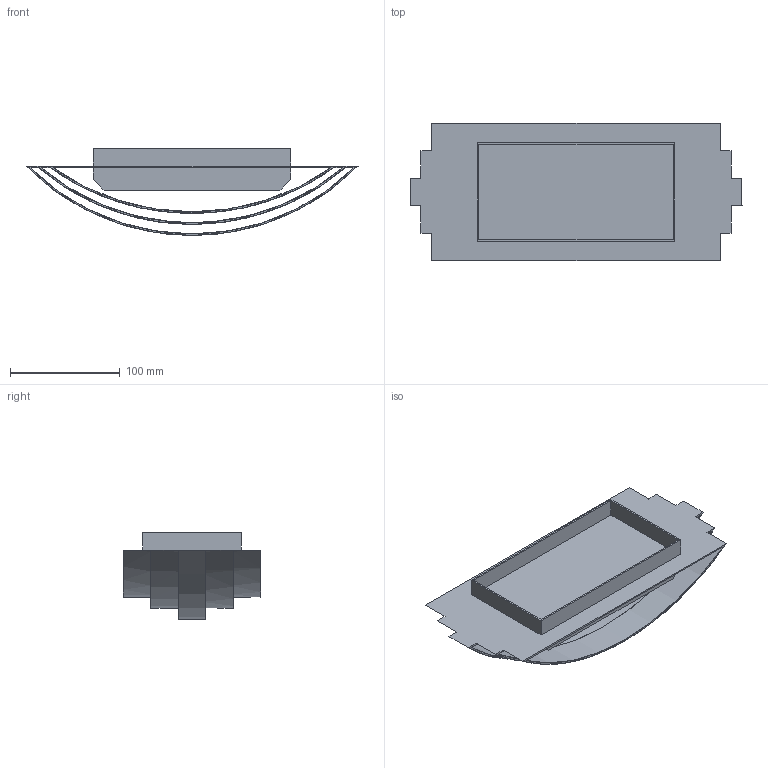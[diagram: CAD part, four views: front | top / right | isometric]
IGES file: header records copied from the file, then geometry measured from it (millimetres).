
Start section: SolidWorks IGES file using analytic representation for surfaces
Global section: file name: C:\Users\danielet\Desktop\3D ANDONI\Luxur\Luxur.IGS; native system: SolidWorks 2018; preprocessor: SolidWorks 2018; author: danielet; date: 210118.093835; units: millimetre
Bounding box: 302 x 125 x 79.11 mm (x, y, z)
Surface area: 181816 mm2 (no closed solid volume)
Topology: 0 solids, 0 shells, 43 faces, 568 edges, 568 vertices
Faces by surface type: bspline 29, revolution 14
